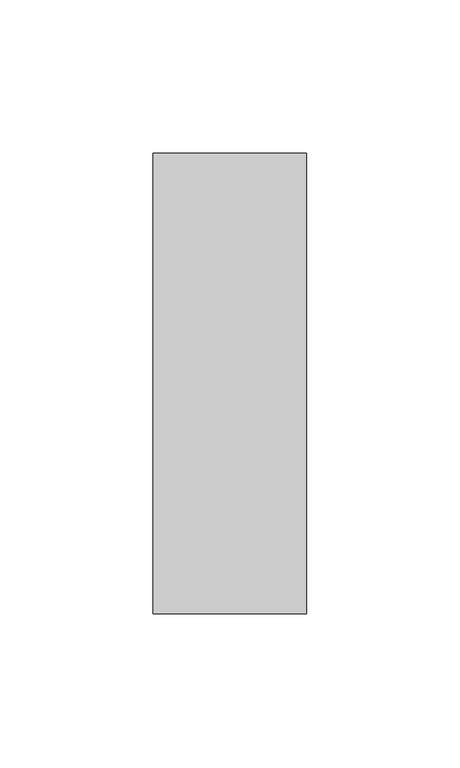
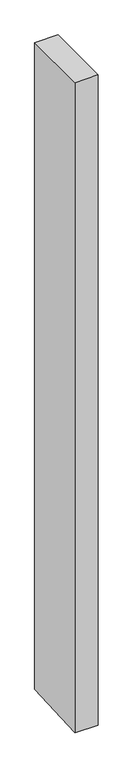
"""IFC4 building model written with IfcOpenShell, lengths in millimetres: member geometry, Прямоугольный импост : 50 x 150 мм."""

from ifc_helpers import new_model, si_unit, origin, place, context, project, spatial, faceted_brep, source, transform, mapped, element, save


def member_49a5c3f8(model_context):
    return source(origin(), model_context, "Body", "Brep", [
        faceted_brep([(25.0, 75.0, 0.0), (-25.0, 75.0, 0.0), (-25.0, -75.0, 0.0), (25.0, -75.0, 0.0), (25.0, 75.0, -1468.4112708), (-25.0, 75.0, -1468.1044053), (-25.0, -75.0, -1476.8839835), (25.0, -75.0, -1477.190849)], [[[0, 1, 2, 3]], [[1, 0, 4, 5]], [[2, 1, 5, 6]], [[3, 2, 6, 7]], [[0, 3, 7, 4]], [[4, 7, 6, 5]]]),
    ])


if __name__ == "__main__":
    model = new_model("IFC4")
    model_context = context("Model", 3, world=origin())
    ifc_project = project(units=[si_unit("LENGTHUNIT", "METRE", prefix="MILLI")], contexts=[model_context])
    site = spatial("IfcSite", under=ifc_project)
    building = spatial("IfcBuilding", under=site)
    placement = place(None, origin())
    member_shape = member_49a5c3f8(model_context)
    element("IfcMember", 1, ObjectType="Прямоугольный импост : 50 x 150 мм", at=placement, inside=building, context=model_context, shape_type="MappedRepresentation", body=[
        mapped(member_shape, transform((0.0, 0.0, 0.0), x_axis=(1.0, 0.0, 0.0), y_axis=(0.0, 1.0, 0.0), z_axis=(0.0, 0.0, 1.0))),
    ])
    save(model, "model.ifc")
